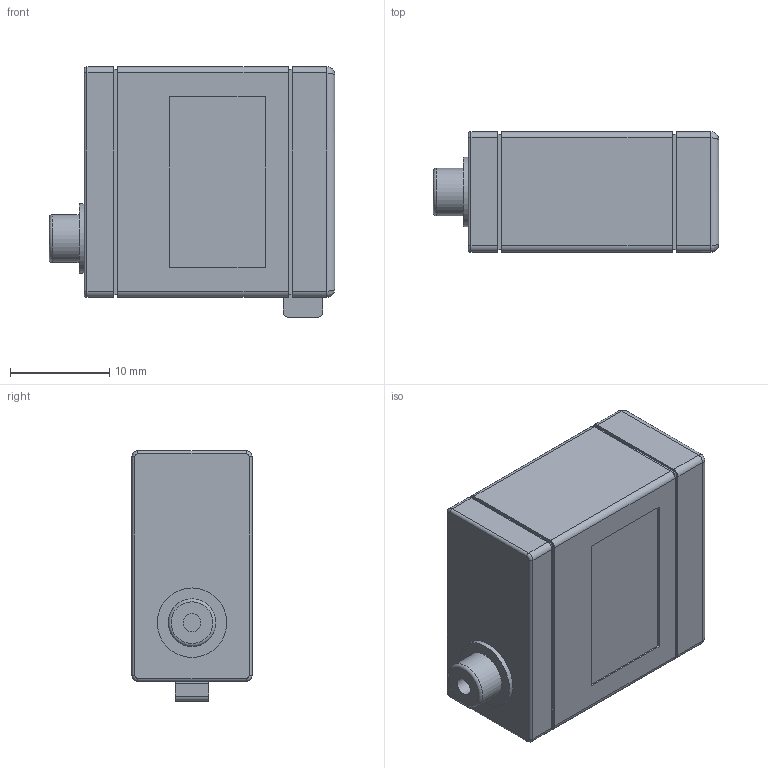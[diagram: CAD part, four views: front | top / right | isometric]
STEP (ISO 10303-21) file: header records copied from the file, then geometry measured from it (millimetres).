
FILE_DESCRIPTION(('Open CASCADE Model'),'2;1');
FILE_NAME('Open CASCADE Shape Model','2026-11-01T16:33:56',('Author'),( 'Open CASCADE'),'Open CASCADE STEP processor 8.0','build123d', 'Unknown');
FILE_SCHEMA(('AUTOMOTIVE_DESIGN { 1 0 10303 214 1 1 1 1 }'));
Length unit declared in the file: millimetre
Products named in the file (2): =>[0:1:1:2]; SOLID
Assembly tree (1 placements, depth 2):
  =>[0:1:1:2]
    SOLID
Bounding box: 28.75 x 12.1 x 25.2 mm (x, y, z)
Volume: 7100.2 mm3; surface area: 2463 mm2
Topology: 1 solids, 1 shells, 81 faces, 199 edges, 123 vertices
Faces by surface type: plane 45, cylinder 27, torus 5, bspline 4
Full cylindrical faces by diameter (mm): 1.8 x1, 4.8 x1, 7 x1
Entity records: 5406 total; most frequent: CARTESIAN_POINT 1665, DIRECTION 621, ORIENTED_EDGE 390, PCURVE 390, DEFINITIONAL_REPRESENTATION 390, LINE 341, VECTOR 341, EDGE_CURVE 195
